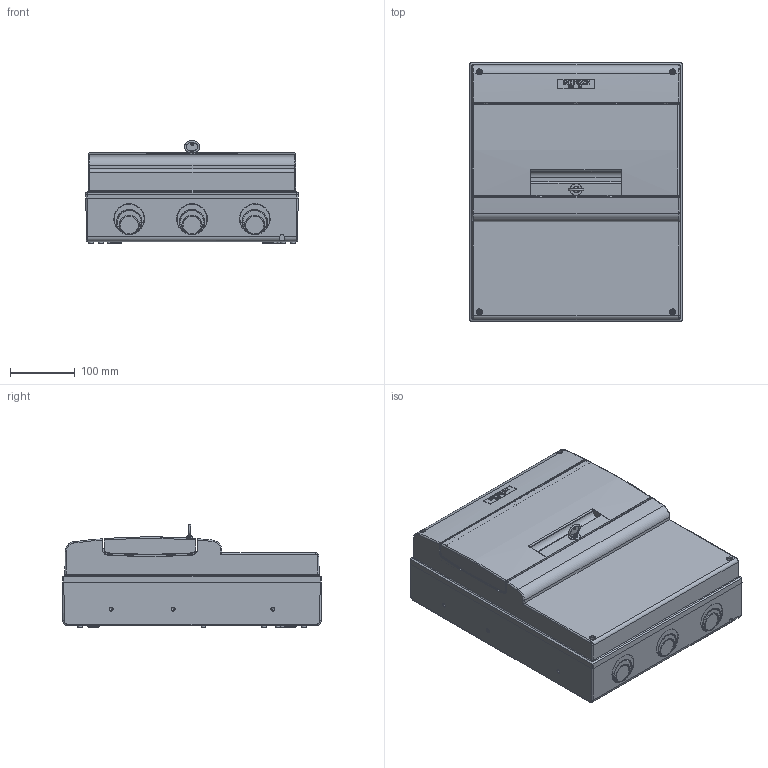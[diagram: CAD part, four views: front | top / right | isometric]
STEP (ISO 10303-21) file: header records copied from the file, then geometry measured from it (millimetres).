
FILE_DESCRIPTION(/* description */ (''),/* implementation_level */ '2;1');
FILE_NAME(/* name */ '4004209.stp',/* time_stamp */ '2019-03-01T14:16:22+01:00',/* author */ (''),/* organization */ (''),/* preprocessor_version */ 'ST-DEVELOPER v16.7',/* originating_system */ 'SIEMENS PLM Software NX 12.0',/* authorisation */ '');
FILE_SCHEMA (('AUTOMOTIVE_DESIGN { 1 0 10303 214 3 1 1 1 }'));
Products named in the file (1): bsom23CC53FBpn33
Bounding box: 328 x 400 x 158.74 mm (x, y, z)
Volume: 1904249 mm3; surface area: 1229577.6 mm2
Topology: 11 solids, 11 shells, 2679 faces, 7171 edges, 4642 vertices
Faces by surface type: plane 1330, cylinder 648, cone 314, torus 218, bspline 125, extrusion 40, revolution 2, sphere 2
Full cylindrical faces by diameter (mm): 2 x3, 2.4 x8, 2.5 x10, 2.8 x10, 3 x5, 3.2 x4, 3.4 x10, 3.5 x3, 4 x6, 4.3 x2, 4.8 x6, 6 x6, 7.4 x1, 7.5 x4, 8 x6, 8.5 x6, 8.7 x1, 9.3 x1, 9.5 x6, 29 x6
Entity records: 94300 total; most frequent: CARTESIAN_POINT 30126, ORIENTED_EDGE 13388, DIRECTION 12870, EDGE_CURVE 6694, AXIS2_PLACEMENT_3D 4808, VERTEX_POINT 4489, EDGE_LOOP 3253, VECTOR 3252
